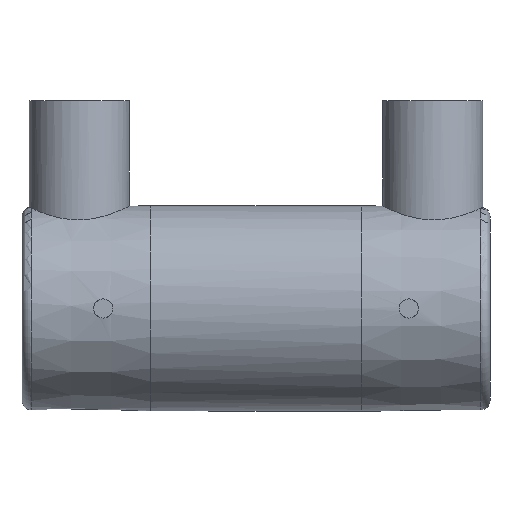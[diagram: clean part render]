
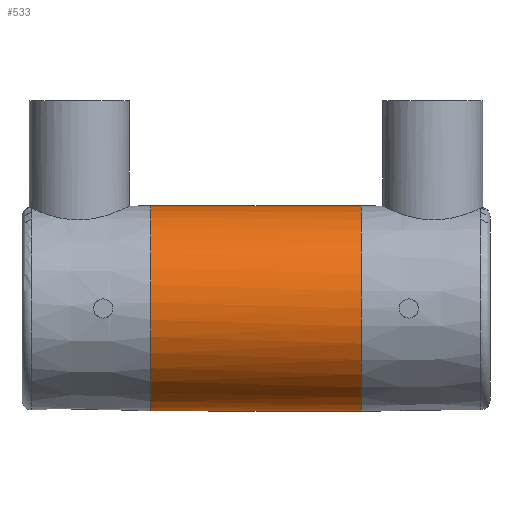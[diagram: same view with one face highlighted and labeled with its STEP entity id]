
A CAD part, front view. The second image highlights one B-rep face of the part: STEP entity #533.
In plain terms, the highlighted cylindrical face has radius 21.5 mm (diameter 43 mm), a full revolution.
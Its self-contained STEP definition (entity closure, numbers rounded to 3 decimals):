
#24=B_SPLINE_CURVE_WITH_KNOTS('',3,(#935,#936,#937,#938,#939,#940,#941,
#942,#943,#944,#945,#946,#947,#948,#949,#950,#951,#952,#953,#954,#955,#956,
#957,#958,#959,#960,#961,#962,#963,#964,#965,#966,#967),.UNSPECIFIED.,.T.,
 .F.,(1,1,1,1,1,1,1,1,1,1,1,1,1,1,1,1,1,1,1,1,1,1,1,1,1,1,1,1,1,1,1,1,1,
1,1,1,1),(-0.01,-0.007,-0.003,
0.,0.003,0.007,0.01,
0.014,0.017,0.021,0.024,
0.028,0.031,0.034,0.038,
0.041,0.045,0.048,0.055,
0.059,0.062,0.069,0.072,
0.076,0.079,0.083,0.086,
0.09,0.093,0.096,0.1,
0.103,0.107,0.11,0.114,
0.117,0.121),.UNSPECIFIED.);
#42=CYLINDRICAL_SURFACE('',#608,21.5);
#64=CIRCLE('',#603,21.5);
#68=CIRCLE('',#609,21.5);
#146=ORIENTED_EDGE('',*,*,#225,.F.);
#147=ORIENTED_EDGE('',*,*,#231,.T.);
#148=ORIENTED_EDGE('',*,*,#224,.F.);
#224=EDGE_CURVE('',#277,#277,#24,.T.);
#225=EDGE_CURVE('',#278,#278,#64,.T.);
#231=EDGE_CURVE('',#284,#284,#68,.T.);
#277=VERTEX_POINT('',#968);
#278=VERTEX_POINT('',#971);
#284=VERTEX_POINT('',#985);
#384=EDGE_LOOP('',(#146));
#385=EDGE_LOOP('',(#147));
#386=EDGE_LOOP('',(#148));
#458=FACE_BOUND('',#384,.T.);
#459=FACE_BOUND('',#385,.T.);
#460=FACE_BOUND('',#386,.T.);
#533=ADVANCED_FACE('',(#458,#459,#460),#42,.T.);
#603=AXIS2_PLACEMENT_3D('',#970,#726,#727);
#608=AXIS2_PLACEMENT_3D('',#983,#738,#739);
#609=AXIS2_PLACEMENT_3D('',#984,#740,#741);
#726=DIRECTION('',(-1.,0.,0.));
#727=DIRECTION('',(0.,0.,1.));
#738=DIRECTION('',(-1.,0.,0.));
#739=DIRECTION('',(0.,0.,1.));
#740=DIRECTION('',(-1.,0.,0.));
#741=DIRECTION('',(0.,0.,1.));
#935=CARTESIAN_POINT('',(16.508,21.311,3.47));
#936=CARTESIAN_POINT('',(16.87,21.594,-0.004));
#937=CARTESIAN_POINT('',(16.51,21.312,-3.453));
#938=CARTESIAN_POINT('',(15.472,20.514,-6.702));
#939=CARTESIAN_POINT('',(13.872,19.329,-9.568));
#940=CARTESIAN_POINT('',(11.834,17.911,-11.993));
#941=CARTESIAN_POINT('',(9.399,16.388,-13.981));
#942=CARTESIAN_POINT('',(6.646,14.952,-15.486));
#943=CARTESIAN_POINT('',(3.492,13.798,-16.5));
#944=CARTESIAN_POINT('',(0.031,13.323,-16.872));
#945=CARTESIAN_POINT('',(-3.436,13.783,-16.512));
#946=CARTESIAN_POINT('',(-6.603,14.933,-15.504));
#947=CARTESIAN_POINT('',(-9.362,16.366,-14.006));
#948=CARTESIAN_POINT('',(-11.806,17.892,-12.02));
#949=CARTESIAN_POINT('',(-13.842,19.307,-9.61));
#950=CARTESIAN_POINT('',(-15.992,20.9,-5.793));
#951=CARTESIAN_POINT('',(-16.99,21.689,-1.226));
#952=CARTESIAN_POINT('',(-16.52,21.32,3.414));
#953=CARTESIAN_POINT('',(-15.139,20.26,7.755));
#954=CARTESIAN_POINT('',(-12.659,18.429,11.315));
#955=CARTESIAN_POINT('',(-9.414,16.396,13.971));
#956=CARTESIAN_POINT('',(-6.659,14.958,15.48));
#957=CARTESIAN_POINT('',(-3.501,13.8,16.498));
#958=CARTESIAN_POINT('',(-0.033,13.323,16.872));
#959=CARTESIAN_POINT('',(3.439,13.783,16.512));
#960=CARTESIAN_POINT('',(6.611,14.936,15.501));
#961=CARTESIAN_POINT('',(9.373,16.372,13.999));
#962=CARTESIAN_POINT('',(11.819,17.901,12.007));
#963=CARTESIAN_POINT('',(13.856,19.317,9.591));
#964=CARTESIAN_POINT('',(15.464,20.508,6.721));
#965=CARTESIAN_POINT('',(16.508,21.311,3.47));
#966=CARTESIAN_POINT('',(16.87,21.594,-0.004));
#967=CARTESIAN_POINT('',(16.51,21.312,-3.453));
#968=CARTESIAN_POINT('',(16.75,21.5,0.));
#970=CARTESIAN_POINT('',(-22.02,0.,0.));
#971=CARTESIAN_POINT('',(-22.02,0.,21.5));
#983=CARTESIAN_POINT('',(-60.,0.,0.));
#984=CARTESIAN_POINT('',(22.02,0.,0.));
#985=CARTESIAN_POINT('',(22.02,0.,21.5));
